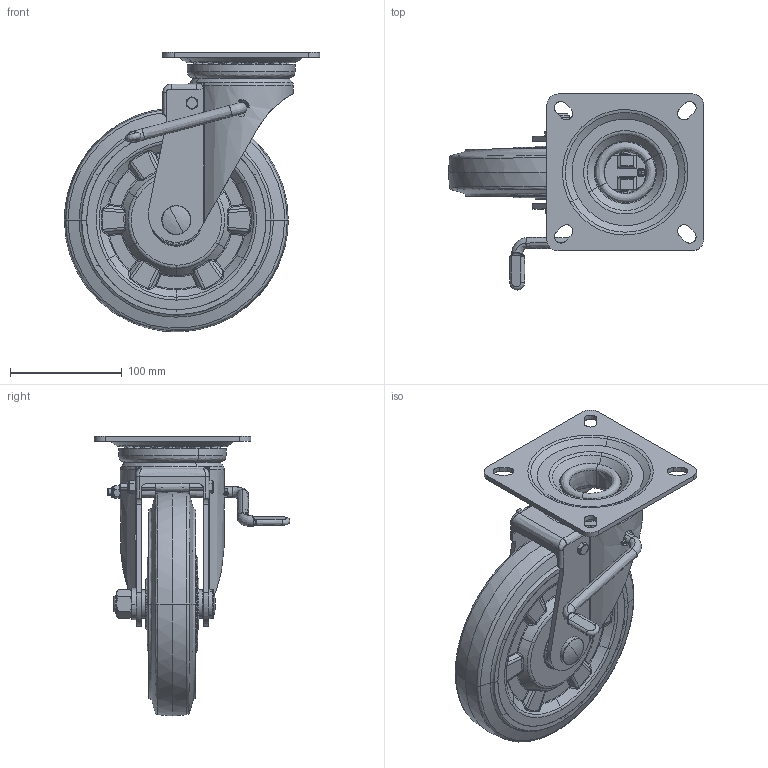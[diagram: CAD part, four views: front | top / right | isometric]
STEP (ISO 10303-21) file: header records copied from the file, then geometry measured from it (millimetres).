
FILE_DESCRIPTION (( 'STEP AP214' ), '1' );
FILE_NAME ('GR-200WJS.STEP', '2022-08-25T08:40:12', ( '' ), ( '' ), 'SwSTEP 2.0', 'SolidWorks 2010', '' );
FILE_SCHEMA (( 'AUTOMOTIVE_DESIGN' ));
Length unit declared in the file: millimetre
Products named in the file (12): GR-200WJS-10; GR-200WJS-15; GR-200WJS-20; GR-200WJS-25; GR-200WJS-30; GR-200WJS-35; GR-200WJS-40; GR-200WJS-45; GR-200WJS-50; GR-200WJS-55; GR-200WJS-60; GR-200WJS
Assembly tree (11 placements, depth 2):
  GR-200WJS
    GR-200WJS-50
    GR-200WJS-15
    GR-200WJS-45
    GR-200WJS-40
    GR-200WJS-30
    GR-200WJS-35
    GR-200WJS-25
    GR-200WJS-20
    GR-200WJS-60
    GR-200WJS-10
    GR-200WJS-55
Bounding box: 228 x 175 x 249.92 mm (x, y, z)
Volume: 785632.8 mm3; surface area: 432506.5 mm2
Topology: 63 solids, 63 shells, 1857 faces, 6839 edges, 4905 vertices
Faces by surface type: bspline 1544, plane 313
Entity records: 322721 total; most frequent: CARTESIAN_POINT 278631, ORIENTED_EDGE 13180, EDGE_CURVE 6590, B_SPLINE_CURVE_WITH_KNOTS 6021, VERTEX_POINT 4905, EDGE_LOOP 1963, FACE_OUTER_BOUND 1857, ADVANCED_FACE 1857
